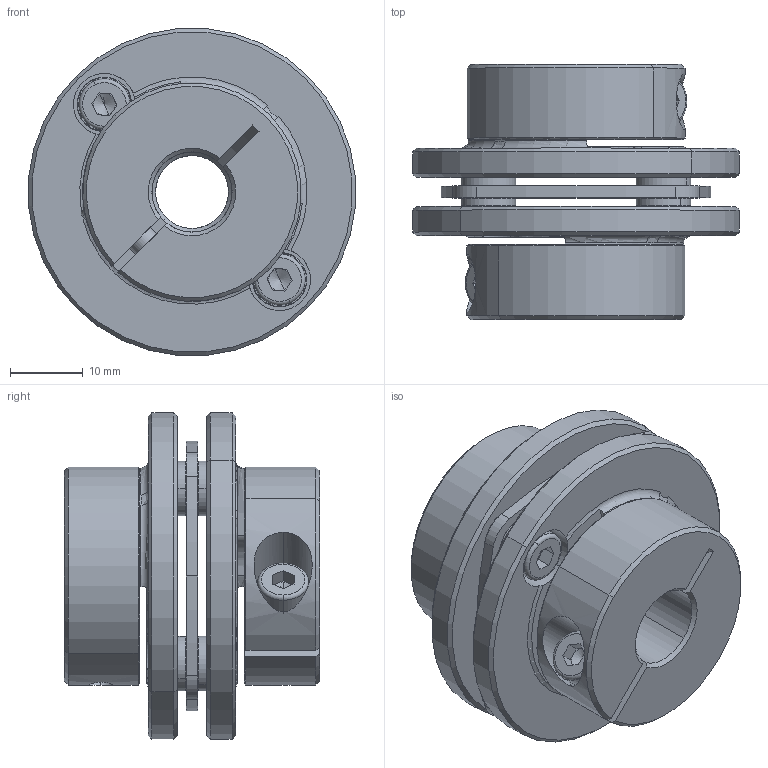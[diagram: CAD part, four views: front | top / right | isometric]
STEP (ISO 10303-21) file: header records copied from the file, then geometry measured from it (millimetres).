
FILE_DESCRIPTION (( 'STEP AP203' ), '1' );
FILE_NAME ('LE1-B-D45L35-10-11.STEP', '2021-11-01T03:06:17', ( '' ), ( '' ), 'SwSTEP 2.0', 'SolidWorks 2018', '' );
FILE_SCHEMA (( 'CONFIG_CONTROL_DESIGN' ));
Length unit declared in the file: millimetre
Products named in the file (1): LE1-B-D45L35-10-11
Bounding box: 44.83 x 35 x 44.83 mm (x, y, z)
Volume: 25836.3 mm3; surface area: 15857.6 mm2
Topology: 1 solids, 13 shells, 405 faces, 991 edges, 614 vertices
Faces by surface type: plane 136, cylinder 135, cone 114, torus 18, bspline 2
Entity records: 12432 total; most frequent: CARTESIAN_POINT 2479, DIRECTION 2247, ORIENTED_EDGE 1958, EDGE_CURVE 979, AXIS2_PLACEMENT_3D 914, VERTEX_POINT 614, CIRCLE 510, EDGE_LOOP 469
